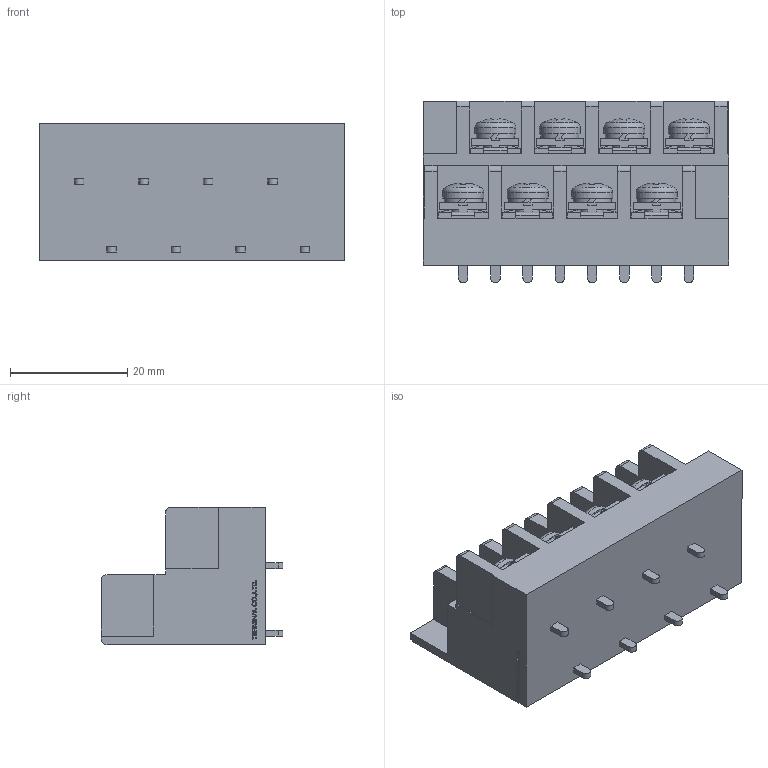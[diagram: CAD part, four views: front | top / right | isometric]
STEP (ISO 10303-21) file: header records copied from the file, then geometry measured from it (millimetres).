
FILE_DESCRIPTION(/* description */ ('Alibre Inc.'),/* implementation_level */ '2;1');
FILE_NAME(/* name */ 'export0',/* time_stamp */ '2016-08-05T11:42:15+09:00',/* author */ (''),/* organization */ (''),/* preprocessor_version */ 'ST-DEVELOPER v14',/* originating_system */ 'Alibre',/* authorisation */ '');
FILE_SCHEMA (('CONFIG_CONTROL_DESIGN'));
Length unit declared in the file: centimetre
Products named in the file (1): ID_1
Bounding box: 52.1 x 31 x 23.5 mm (x, y, z)
Volume: 21878.9 mm3; surface area: 10422.7 mm2
Topology: 1 solids, 81 shells, 1889 faces, 4933 edges, 3254 vertices
Faces by surface type: plane 1454, bspline 312, cylinder 67, cone 32, torus 16, sphere 8
Full cylindrical faces by diameter (mm): 4 x8, 7 x8
Entity records: 55184 total; most frequent: CARTESIAN_POINT 12857, ORIENTED_EDGE 9850, DIRECTION 6053, EDGE_CURVE 4893, VECTOR 3707, LINE 3707, VERTEX_POINT 3246, EDGE_LOOP 2041
